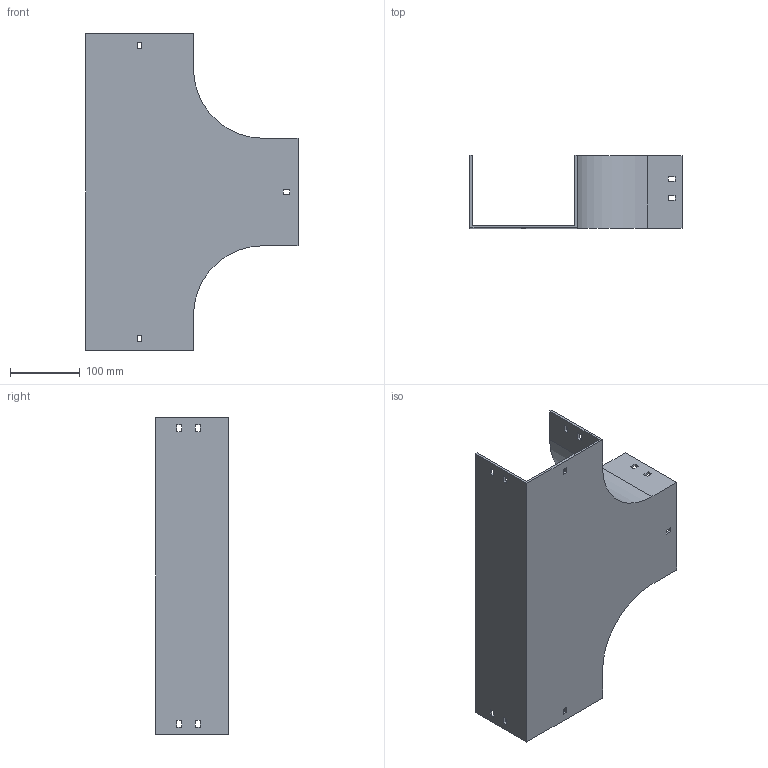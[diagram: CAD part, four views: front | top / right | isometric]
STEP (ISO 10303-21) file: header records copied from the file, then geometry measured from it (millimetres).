
FILE_DESCRIPTION (( 'STEP AP214' ), '1' );
FILE_NAME ('15B1D150.step', '2025-02-21T09:53:11', ( '' ), ( '' ), 'SwSTEP 2.0', 'SolidWorks 2023', '' );
FILE_SCHEMA (( 'AUTOMOTIVE_DESIGN' ));
Length unit declared in the file: millimetre
Products named in the file (1): 15B1D150
Bounding box: 304 x 104 x 454 mm (x, y, z)
Volume: 679507.7 mm3; surface area: 397159.7 mm2
Topology: 1 solids, 1 shells, 82 faces, 240 edges, 160 vertices
Faces by surface type: plane 78, cylinder 4
Entity records: 2755 total; most frequent: CARTESIAN_POINT 483, ORIENTED_EDGE 480, DIRECTION 414, EDGE_CURVE 240, LINE 232, VECTOR 232, VERTEX_POINT 160, EDGE_LOOP 112
